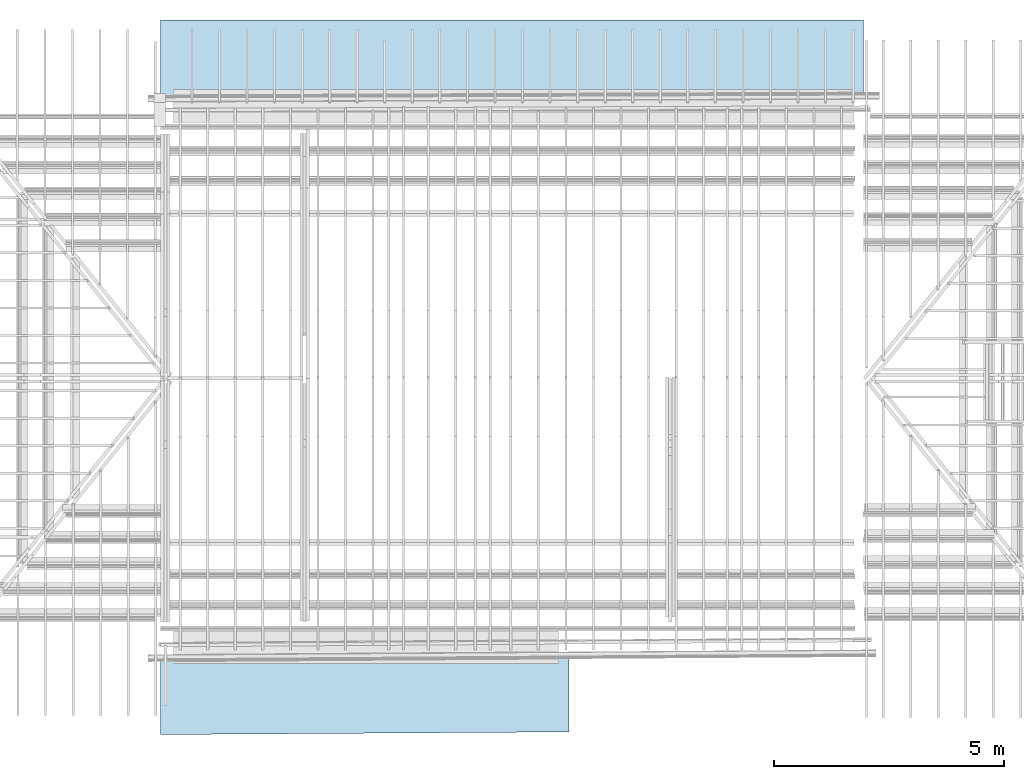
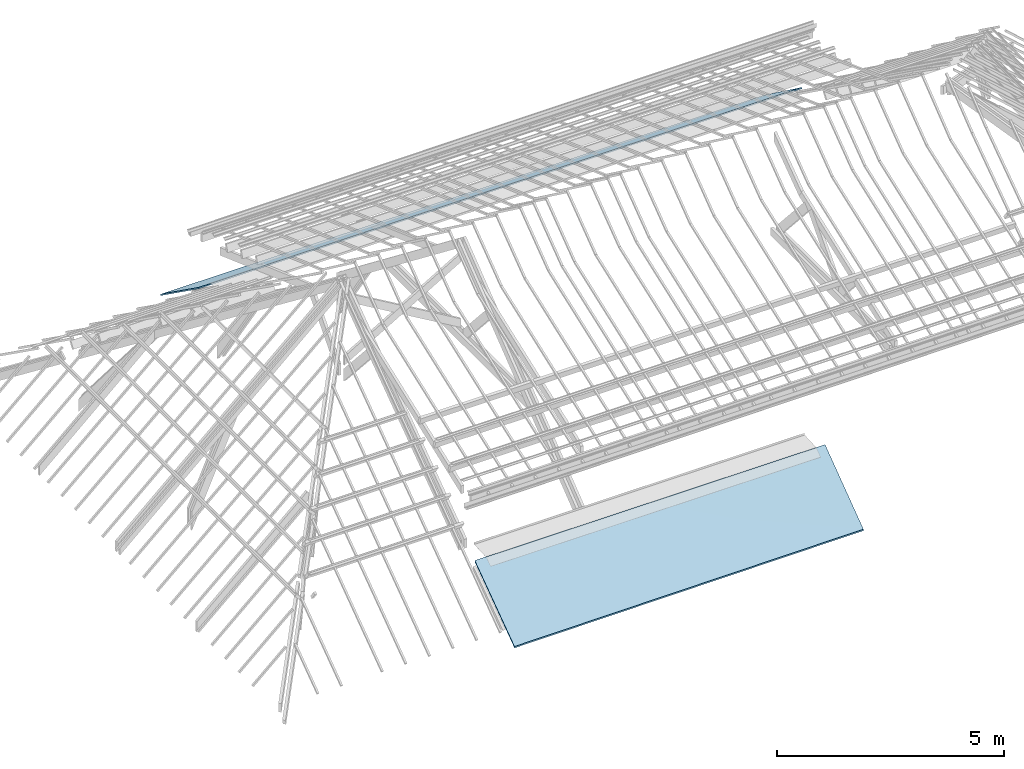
# One storey, part 18 of 18: 2 roofs.
"""IFC2X3 building model written with IfcOpenShell, lengths in centimetres."""

from ifc_helpers import new_model, entity, si_unit, converted_unit, direction, frame, origin, place, context, subcontext, project, spatial, faceted_brep, material, layer, layer_set, type_object, element, save


model = new_model("IFC2X3")

# Units and contexts
model_context = context("Model", 3, precision=0.001, world=frame((0.0, 0.0, 13090.0)), true_north=direction((6.123233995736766e-17, 1.0)))
body_context = subcontext(model_context, "Body", "Model", "MODEL_VIEW")
ifc_project = project(units=[si_unit("LENGTHUNIT", "METRE", prefix="CENTI"), si_unit("AREAUNIT", "SQUARE_METRE"), si_unit("VOLUMEUNIT", "CUBIC_METRE"), converted_unit("PLANEANGLEUNIT", "DEGREE", entity("IfcPlaneAngleMeasure", 0.017453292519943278), si_unit("PLANEANGLEUNIT", "RADIAN"), dimensions=[0, 0, 0, 0, 0, 0, 0])], contexts=[model_context])

# Site, building, storey
site_placement = place(None, origin())
site = spatial("IfcSite", under=ifc_project, at=site_placement, Name="Default", CompositionType="ELEMENT")
building_placement = place(site_placement, origin())
building = spatial("IfcBuilding", under=site, at=building_placement, Name="e 39 logements et 22 maisons relais", CompositionType="ELEMENT")
storey_placement = place(building_placement, frame((0.0, 0.0, 610.0)))
storey = spatial("IfcBuildingStorey", under=building, at=storey_placement, Name="R+2", CompositionType="ELEMENT", Elevation=609.9999999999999)

# Roofs
ifc_material = material(Name="tole")
ifc_layer = layer(ifc_material, 4.0)
ifc_layer_set = layer_set([ifc_layer], Name="Toit de base:Tôle 1000P")
type_product = type_object("IfcTypeProduct", Name="Toit de base:Tôle 1000P")
roof_1_placement = place(storey_placement, frame((-923.0294746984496, -798.732745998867, -275.0)))
element("IfcRoof", 1, at=roof_1_placement, inside=storey, type_object=type_product, material=ifc_layer_set, Name="Toit de base:Tôle 1000P", ObjectType="Toit de base:Tôle 1000P", ShapeType="NOTDEFINED", context=body_context, shape_type="Brep", body=[
    faceted_brep([(0.0, 0.0, 4.0), (0.0, 0.0, 0.0), (217.2575222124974, 1.4247059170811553, 0.0), (454.70632763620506, 2.9818198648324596, 0.0), (889.2213720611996, 5.83123169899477, 0.0), (889.2213720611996, 5.83123169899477, 4.0), (454.70632763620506, 2.9818198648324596, 4.0), (217.2575222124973, 1.4247059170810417, 4.0), (0.0, 174.54628986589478, 125.0), (0.0, 97.78399091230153, 70.02726252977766), (0.0, 97.78399091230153, 74.0272625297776), (0.0, 174.54628986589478, 129.0), (889.2213720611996, 174.5462898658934, 129.0), (889.2213720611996, 174.5462898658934, 125.0), (444.6106860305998, 174.5462898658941, 125.0), (444.6106860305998, 174.5462898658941, 129.0), (889.2213720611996, 80.02907901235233, 54.972751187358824), (889.2213720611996, 80.02907901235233, 58.97275118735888), (335.9818916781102, 87.56432973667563, 65.91218499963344), (614.6164270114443, 97.78241867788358, 72.72672682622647), (335.9818916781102, 87.56432973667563, 61.91218499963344), (614.6164270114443, 97.78241867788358, 68.72672682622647)], [[[0, 1, 2, 3, 4, 5, 6, 7]], [[8, 9, 1, 0, 10, 11]], [[12, 13, 14, 8, 11, 15]], [[5, 4, 16, 13, 12, 17]], [[6, 18, 7]], [[19, 15, 18]], [[5, 17, 12, 19]], [[6, 5, 19]], [[10, 18, 11]], [[19, 12, 15]], [[7, 18, 10]], [[10, 0, 7]], [[18, 15, 11]], [[6, 19, 18]], [[2, 20, 3]], [[20, 14, 21]], [[21, 13, 16, 4]], [[21, 4, 3]], [[8, 20, 9]], [[14, 13, 21]], [[9, 20, 2]], [[2, 1, 9]], [[8, 14, 20]], [[20, 21, 3]]]),
])
roof_2_placement = place(storey_placement, frame((-923.0294746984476, 588.3737111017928, -275.0)))
element("IfcRoof", 2, at=roof_2_placement, inside=storey, type_object=type_product, material=ifc_layer_set, Name="Toit de base:Tôle 1000P", ObjectType="Toit de base:Tôle 1000P", ShapeType="NOTDEFINED", context=body_context, shape_type="Brep", body=[
    faceted_brep([(1530.7195752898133, 169.15156318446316, 4.0), (1530.7195752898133, 169.15156318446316, 0.0), (1248.0132518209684, 169.15156318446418, 0.36937702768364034), (765.3597876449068, 169.15156318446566, 1.0), (0.0, 169.15156318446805, 2.0), (0.0, 169.15156318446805, 6.0), (765.3597876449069, 169.15156318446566, 5.0), (1248.0132518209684, 169.15156318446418, 4.3693770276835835), (0.0, 112.46525333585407, 42.54969024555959), (0.0, 0.0, 123.0), (0.0, 0.0, 127.0), (0.0, 112.46526488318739, 46.54968198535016), (482.65346758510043, 0.0, 123.31531148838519), (965.3069351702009, 0.0, 123.63062297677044), (1530.7195752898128, 0.0, 124.0), (1530.7195752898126, 0.0, 128.0), (965.3069351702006, 0.0, 127.6306229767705), (482.6534675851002, 0.0, 127.31531148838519), (1530.719575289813, 112.46526793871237, 41.55504376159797), (1530.7195752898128, 112.46526793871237, 45.55504376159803), (1132.790393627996, 90.18175399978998, 62.046255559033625), (723.9801560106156, 77.96503294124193, 71.04786821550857), (1132.790393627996, 90.18175399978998, 58.046255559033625), (723.9801560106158, 77.96503294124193, 67.04786821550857)], [[[0, 1, 2, 3, 4, 5, 6, 7]], [[5, 4, 8, 9, 10, 11]], [[10, 9, 12, 13, 14, 15, 16, 17]], [[14, 18, 1, 0, 19, 15]], [[11, 10, 17]], [[7, 6, 20]], [[19, 0, 7]], [[21, 17, 16]], [[11, 6, 5]], [[6, 21, 20]], [[11, 17, 21]], [[19, 20, 15]], [[11, 21, 6]], [[7, 20, 19]], [[21, 16, 20]], [[15, 20, 16]], [[12, 9, 8]], [[22, 3, 2]], [[2, 1, 18]], [[13, 12, 23]], [[4, 3, 8]], [[22, 23, 3]], [[23, 12, 8]], [[14, 22, 18]], [[3, 23, 8]], [[18, 22, 2]], [[22, 13, 23]], [[13, 22, 14]]]),
])

save(model, "model.ifc")
